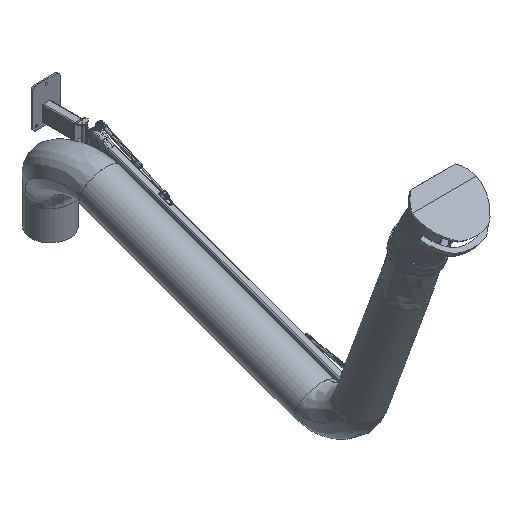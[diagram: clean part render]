
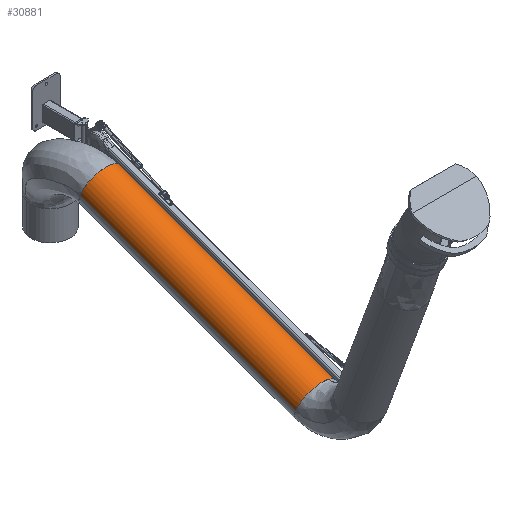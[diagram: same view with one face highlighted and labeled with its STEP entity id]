
A CAD part, isometric view. The second image highlights one B-rep face of the part: STEP entity #30881.
In plain terms, the highlighted free-form (B-spline) face has degree [3, 3] with [7, 6] control points.
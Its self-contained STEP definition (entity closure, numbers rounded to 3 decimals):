
#29453=CARTESIAN_POINT('',(-70.,1348.688,-1100.));
#29454=DIRECTION('',(0.,1.,0.));
#29455=DIRECTION('',(-1.,0.,0.));
#29456=AXIS2_PLACEMENT_3D('',#29453,#29454,#29455);
#29540=CARTESIAN_POINT('',(-70.,180.,-1100.));
#29541=DIRECTION('',(0.,1.,0.));
#29542=DIRECTION('',(-1.,0.,0.));
#29543=AXIS2_PLACEMENT_3D('',#29540,#29541,#29542);
#29548=CARTESIAN_POINT('',(-170.,180.,-1100.));
#29549=CARTESIAN_POINT('',(-170.,309.854,
-1100.));
#29550=CARTESIAN_POINT('',(-170.,569.563,
-1100.));
#29551=CARTESIAN_POINT('',(-170.,959.125,
-1100.));
#29552=CARTESIAN_POINT('',(-170.,1218.834,
-1100.));
#29553=CARTESIAN_POINT('',(-170.,1348.688,
-1100.));
#29789=CARTESIAN_POINT('',(30.,180.,-1100.));
#29790=CARTESIAN_POINT('',(30.,309.854,
-1100.));
#29791=CARTESIAN_POINT('',(30.,569.563,
-1100.));
#29792=CARTESIAN_POINT('',(30.,959.125,
-1100.));
#29793=CARTESIAN_POINT('',(30.,1218.834,
-1100.));
#29794=CARTESIAN_POINT('',(30.,1348.688,
-1100.));
#30420=CARTESIAN_POINT('',(30.,180.,-1100.));
#30421=CARTESIAN_POINT('',(-170.,180.,-1100.));
#30422=VERTEX_POINT('',#30420);
#30423=VERTEX_POINT('',#30421);
#30428=VERTEX_POINT('',#29794);
#30429=VERTEX_POINT('',#29553);
#30829=CARTESIAN_POINT('',(-169.803,156.626,
-1106.279));
#30830=CARTESIAN_POINT('',(-169.803,164.417,
-1106.279));
#30831=CARTESIAN_POINT('',(-169.803,561.771,
-1106.279));
#30832=CARTESIAN_POINT('',(-169.803,966.917,
-1106.279));
#30833=CARTESIAN_POINT('',(-169.803,1364.271,
-1106.279));
#30834=CARTESIAN_POINT('',(-169.803,1372.062,
-1106.279));
#30835=CARTESIAN_POINT('',(-173.667,156.626,
-1044.86));
#30836=CARTESIAN_POINT('',(-173.667,164.417,
-1044.86));
#30837=CARTESIAN_POINT('',(-173.667,561.771,
-1044.86));
#30838=CARTESIAN_POINT('',(-173.667,966.917,
-1044.86));
#30839=CARTESIAN_POINT('',(-173.667,1364.271,
-1044.86));
#30840=CARTESIAN_POINT('',(-173.667,1372.062,
-1044.86));
#30841=CARTESIAN_POINT('',(-131.54,156.626,
-1000.));
#30842=CARTESIAN_POINT('',(-131.54,164.417,
-1000.));
#30843=CARTESIAN_POINT('',(-131.54,561.771,
-1000.));
#30844=CARTESIAN_POINT('',(-131.54,966.917,
-1000.));
#30845=CARTESIAN_POINT('',(-131.54,1364.271,
-1000.));
#30846=CARTESIAN_POINT('',(-131.54,1372.062,
-1000.));
#30847=CARTESIAN_POINT('',(-70.,156.626,
-1000.));
#30848=CARTESIAN_POINT('',(-70.,164.417,
-1000.));
#30849=CARTESIAN_POINT('',(-70.,561.771,
-1000.));
#30850=CARTESIAN_POINT('',(-70.,966.917,
-1000.));
#30851=CARTESIAN_POINT('',(-70.,1364.271,
-1000.));
#30852=CARTESIAN_POINT('',(-70.,1372.062,
-1000.));
#30853=CARTESIAN_POINT('',(-8.46,156.626,
-1000.));
#30854=CARTESIAN_POINT('',(-8.46,164.417,
-1000.));
#30855=CARTESIAN_POINT('',(-8.46,561.771,
-1000.));
#30856=CARTESIAN_POINT('',(-8.46,966.917,
-1000.));
#30857=CARTESIAN_POINT('',(-8.46,1364.271,
-1000.));
#30858=CARTESIAN_POINT('',(-8.46,1372.062,
-1000.));
#30859=CARTESIAN_POINT('',(33.667,156.626,
-1044.861));
#30860=CARTESIAN_POINT('',(33.667,164.417,
-1044.861));
#30861=CARTESIAN_POINT('',(33.667,561.771,
-1044.861));
#30862=CARTESIAN_POINT('',(33.667,966.917,
-1044.861));
#30863=CARTESIAN_POINT('',(33.667,1364.271,
-1044.861));
#30864=CARTESIAN_POINT('',(33.667,1372.062,
-1044.861));
#30865=CARTESIAN_POINT('',(29.803,156.626,
-1106.279));
#30866=CARTESIAN_POINT('',(29.803,164.417,
-1106.279));
#30867=CARTESIAN_POINT('',(29.803,561.771,
-1106.279));
#30868=CARTESIAN_POINT('',(29.803,966.917,
-1106.279));
#30869=CARTESIAN_POINT('',(29.803,1364.271,
-1106.279));
#30870=CARTESIAN_POINT('',(29.803,1372.062,
-1106.279));
#30871=(BOUNDED_SURFACE()B_SPLINE_SURFACE(3,3,((#30829,#30830,#30831,#30832,
#30833,#30834),(#30835,#30836,#30837,#30838,#30839,#30840),(#30841,#30842,
#30843,#30844,#30845,#30846),(#30847,#30848,#30849,#30850,#30851,#30852),
(#30853,#30854,#30855,#30856,#30857,#30858),(#30859,#30860,#30861,#30862,#30863,
#30864),(#30865,#30866,#30867,#30868,#30869,#30870)),.UNSPECIFIED.,.F.,.F.,.F.)B_SPLINE_SURFACE_WITH_KNOTS((4,3,4),(4,1,1,4),(0.,1.,2.),(-0.02,0.,1.,
1.02),.UNSPECIFIED.)GEOMETRIC_REPRESENTATION_ITEM()RATIONAL_B_SPLINE_SURFACE((
(1.187,1.187,1.187,1.187,
1.187,1.187),(0.938,0.938,
0.938,0.938,0.938,0.938),(
0.938,0.938,0.938,0.938,
0.938,0.938),(1.187,1.187,
1.187,1.187,1.187,1.187),(
0.938,0.938,0.938,0.938,
0.938,0.938),(0.938,0.938,
0.938,0.938,0.938,0.938),(
1.187,1.187,1.187,1.187,
1.187,1.187)))REPRESENTATION_ITEM('')SURFACE());
#30873=ORIENTED_EDGE('',*,*,#30872,.F.);
#30875=ORIENTED_EDGE('',*,*,#30874,.T.);
#30876=ORIENTED_EDGE('',*,*,#30819,.T.);
#30878=ORIENTED_EDGE('',*,*,#30877,.F.);
#30879=EDGE_LOOP('',(#30873,#30875,#30876,#30878));
#30880=FACE_OUTER_BOUND('',#30879,.F.);
#29457=CIRCLE('',#29456,100.);
#29544=CIRCLE('',#29543,100.);
#29554=B_SPLINE_CURVE_WITH_KNOTS('',3,(#29548,#29549,#29550,#29551,#29552,
#29553),.UNSPECIFIED.,.F.,.F.,(4,1,1,4),(0.,0.333,
0.667,1.),.UNSPECIFIED.);
#29795=B_SPLINE_CURVE_WITH_KNOTS('',3,(#29789,#29790,#29791,#29792,#29793,
#29794),.UNSPECIFIED.,.F.,.F.,(4,1,1,4),(0.,0.333,
0.667,1.),.UNSPECIFIED.);
#30819=EDGE_CURVE('',#30429,#30428,#29457,.T.);
#30872=EDGE_CURVE('',#30423,#30422,#29544,.T.);
#30874=EDGE_CURVE('',#30423,#30429,#29554,.T.);
#30877=EDGE_CURVE('',#30422,#30428,#29795,.T.);
#30881=ADVANCED_FACE('',(#30880),#30871,.T.);
